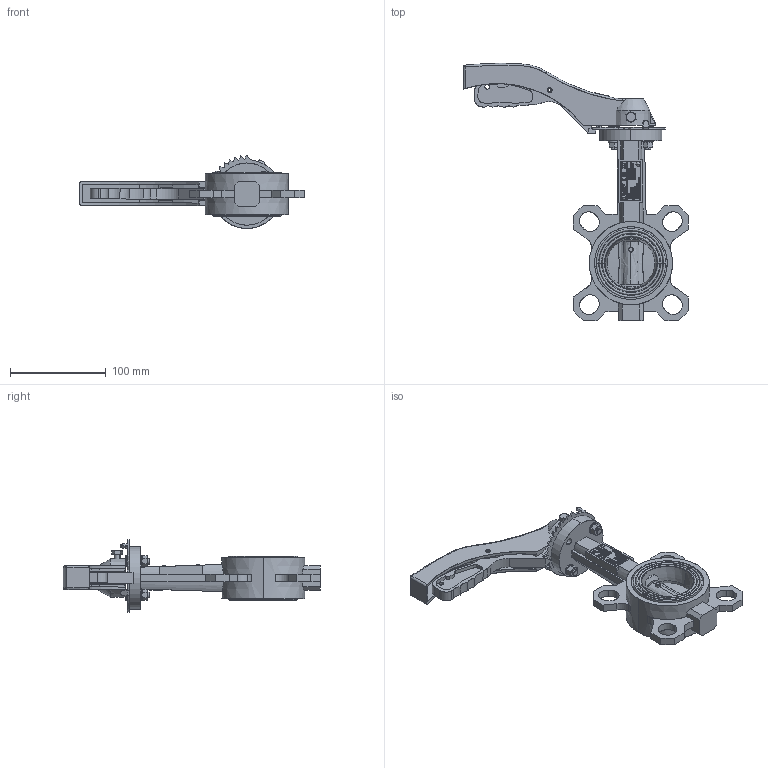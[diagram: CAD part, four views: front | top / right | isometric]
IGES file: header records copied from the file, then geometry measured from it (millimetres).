
Start section: SolidWorks IGES file using analytic representation for surfaces
Global section: file name: H:\BE BIBLIOTHEQUE 3D\BE SECTION 01 - ROBINETS A PAPILLON_VANNES PASSAGE DIRECTE\VP - Vanne Papillon\VPG\WAFER\DN50\VPG444X-02XX0050-Défaut.igs; native system: SolidWorks 2020; preprocessor: SolidWorks 2020; author: k.gigout; date: 220519.182029; units: millimetre
Bounding box: 235.17 x 269.07 x 76.32 mm (x, y, z)
Surface area: 118436.2 mm2 (no closed solid volume)
Topology: 0 solids, 0 shells, 712 faces, 17702 edges, 17698 vertices
Faces by surface type: bspline 529, revolution 183
